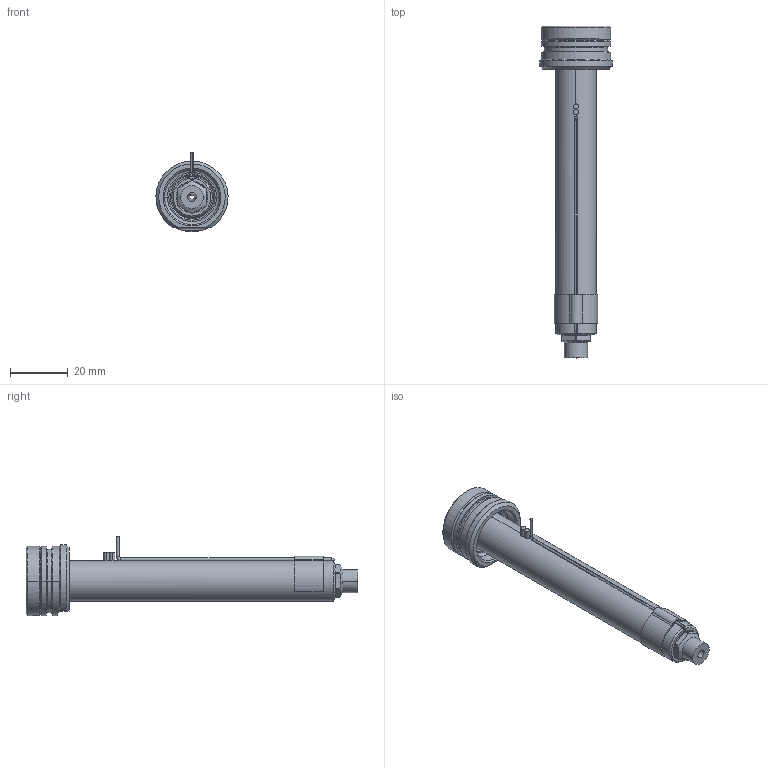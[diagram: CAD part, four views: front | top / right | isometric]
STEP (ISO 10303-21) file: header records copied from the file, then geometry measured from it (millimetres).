
FILE_DESCRIPTION((''),'2;1');
FILE_NAME('EO04_SG_SG_100_SW','2024-02-19T12:11:56',('sundharh'),(''),'CREO PARAMETRIC BY PTC INC, 2023154','CREO PARAMETRIC BY PTC INC, 2023154','');
FILE_SCHEMA(('CONFIG_CONTROL_DESIGN'));
Length unit declared in the file: millimetre
Products named in the file (1): EO04_SG_SG_100_SW
Bounding box: 24.99 x 115 x 27.5 mm (x, y, z)
Volume: 19347.4 mm3; surface area: 9535.2 mm2
Topology: 2 solids, 2 shells, 181 faces, 461 edges, 276 vertices
Faces by surface type: cylinder 67, plane 44, cone 34, torus 22, bspline 11, sphere 3
Entity records: 6421 total; most frequent: CARTESIAN_POINT 2051, DIRECTION 944, ORIENTED_EDGE 902, EDGE_CURVE 451, AXIS2_PLACEMENT_3D 392, VERTEX_POINT 276, CIRCLE 222, EDGE_LOOP 195
